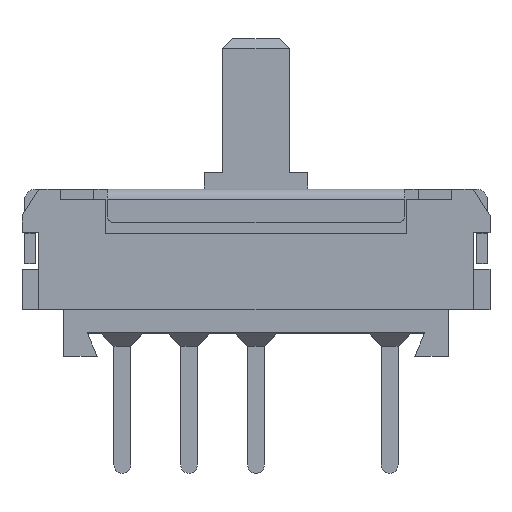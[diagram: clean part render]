
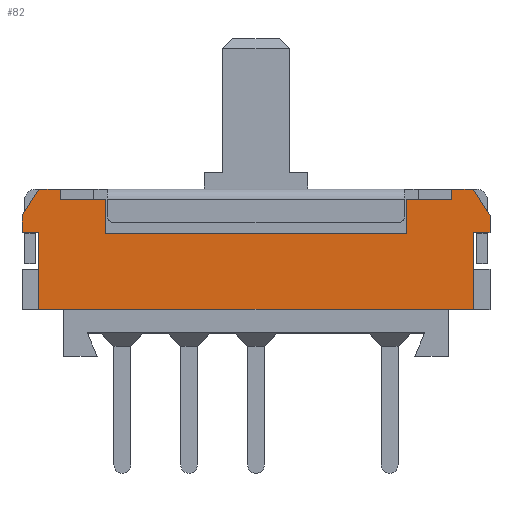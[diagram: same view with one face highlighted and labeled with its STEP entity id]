
A CAD part, top view. The second image highlights one B-rep face of the part: STEP entity #82.
In plain terms, the highlighted planar face has unit normal (0, 0, 1).
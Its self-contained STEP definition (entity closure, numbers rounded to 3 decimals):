
#82 = ADVANCED_FACE ( 'NONE', ( #2293 ), #2252, .T. ) ;
#83 = EDGE_LOOP ( 'NONE', ( #178, #342, #343, #346, #386, #389, #392, #337, #576, #487, #488, #504, #494, #577, #397, #402, #355, #323 ) ) ;
#104 = VERTEX_POINT ( 'NONE', #2243 ) ;
#106 = EDGE_CURVE ( 'NONE', #307, #104, #2241, .T. ) ;
#115 = EDGE_CURVE ( 'NONE', #131, #116, #2306, .T. ) ;
#116 = VERTEX_POINT ( 'NONE', #2302 ) ;
#131 = VERTEX_POINT ( 'NONE', #2547 ) ;
#178 = ORIENTED_EDGE ( 'NONE', *, *, #340, .T. ) ;
#307 = VERTEX_POINT ( 'NONE', #2867 ) ;
#309 = EDGE_CURVE ( 'NONE', #310, #307, #2957, .T. ) ;
#310 = VERTEX_POINT ( 'NONE', #2953 ) ;
#323 = ORIENTED_EDGE ( 'NONE', *, *, #324, .T. ) ;
#324 = EDGE_CURVE ( 'NONE', #399, #341, #2945, .T. ) ;
#335 = EDGE_CURVE ( 'NONE', #391, #336, #2827, .T. ) ;
#336 = VERTEX_POINT ( 'NONE', #2843 ) ;
#337 = ORIENTED_EDGE ( 'NONE', *, *, #338, .T. ) ;
#338 = EDGE_CURVE ( 'NONE', #336, #339, #2842, .T. ) ;
#339 = VERTEX_POINT ( 'NONE', #2838 ) ;
#340 = EDGE_CURVE ( 'NONE', #341, #116, #2975, .T. ) ;
#341 = VERTEX_POINT ( 'NONE', #2971 ) ;
#342 = ORIENTED_EDGE ( 'NONE', *, *, #115, .F. ) ;
#343 = ORIENTED_EDGE ( 'NONE', *, *, #344, .T. ) ;
#344 = EDGE_CURVE ( 'NONE', #131, #345, #2970, .T. ) ;
#345 = VERTEX_POINT ( 'NONE', #2966 ) ;
#346 = ORIENTED_EDGE ( 'NONE', *, *, #347, .T. ) ;
#347 = EDGE_CURVE ( 'NONE', #345, #348, #2965, .T. ) ;
#348 = VERTEX_POINT ( 'NONE', #2895 ) ;
#353 = EDGE_CURVE ( 'NONE', #401, #354, #2889, .T. ) ;
#354 = VERTEX_POINT ( 'NONE', #2885 ) ;
#355 = ORIENTED_EDGE ( 'NONE', *, *, #398, .T. ) ;
#386 = ORIENTED_EDGE ( 'NONE', *, *, #387, .T. ) ;
#387 = EDGE_CURVE ( 'NONE', #348, #388, #3037, .T. ) ;
#388 = VERTEX_POINT ( 'NONE', #2993 ) ;
#389 = ORIENTED_EDGE ( 'NONE', *, *, #390, .T. ) ;
#390 = EDGE_CURVE ( 'NONE', #388, #391, #2992, .T. ) ;
#391 = VERTEX_POINT ( 'NONE', #3053 ) ;
#392 = ORIENTED_EDGE ( 'NONE', *, *, #335, .T. ) ;
#397 = ORIENTED_EDGE ( 'NONE', *, *, #400, .T. ) ;
#398 = EDGE_CURVE ( 'NONE', #354, #399, #3198, .T. ) ;
#399 = VERTEX_POINT ( 'NONE', #3136 ) ;
#400 = EDGE_CURVE ( 'NONE', #579, #401, #3116, .T. ) ;
#401 = VERTEX_POINT ( 'NONE', #3149 ) ;
#402 = ORIENTED_EDGE ( 'NONE', *, *, #353, .T. ) ;
#486 = EDGE_CURVE ( 'NONE', #310, #339, #3464, .T. ) ;
#487 = ORIENTED_EDGE ( 'NONE', *, *, #309, .T. ) ;
#488 = ORIENTED_EDGE ( 'NONE', *, *, #106, .T. ) ;
#494 = ORIENTED_EDGE ( 'NONE', *, *, #495, .T. ) ;
#495 = EDGE_CURVE ( 'NONE', #506, #496, #3469, .T. ) ;
#496 = VERTEX_POINT ( 'NONE', #3414 ) ;
#504 = ORIENTED_EDGE ( 'NONE', *, *, #505, .T. ) ;
#505 = EDGE_CURVE ( 'NONE', #104, #506, #3504, .T. ) ;
#506 = VERTEX_POINT ( 'NONE', #3500 ) ;
#576 = ORIENTED_EDGE ( 'NONE', *, *, #486, .F. ) ;
#577 = ORIENTED_EDGE ( 'NONE', *, *, #578, .T. ) ;
#578 = EDGE_CURVE ( 'NONE', #496, #579, #3705, .T. ) ;
#579 = VERTEX_POINT ( 'NONE', #3667 ) ;
#2239 = VECTOR ( 'NONE', #2325, 1000. ) ;
#2240 = CARTESIAN_POINT ( 'NONE',  ( -7., 1.4, 2.35 ) ) ;
#2241 = LINE ( 'NONE', #2240, #2239 ) ;
#2243 = CARTESIAN_POINT ( 'NONE',  ( 6.5, 1.4, 2.35 ) ) ;
#2250 = CARTESIAN_POINT ( 'NONE',  ( -7., 1.4, 2.35 ) ) ;
#2251 = AXIS2_PLACEMENT_3D ( 'NONE', #2250, #2266, #2265 ) ;
#2252 = PLANE ( 'NONE',  #2251 ) ;
#2265 = DIRECTION ( 'NONE',  ( 1., 0., 0. ) ) ;
#2266 = DIRECTION ( 'NONE',  ( 0., 0., 1. ) ) ;
#2293 = FACE_OUTER_BOUND ( 'NONE', #83, .T. ) ;
#2302 = CARTESIAN_POINT ( 'NONE',  ( 4.5, 3.68, 2.35 ) ) ;
#2303 = DIRECTION ( 'NONE',  ( 1., 0., 0. ) ) ;
#2304 = VECTOR ( 'NONE', #2303, 1000. ) ;
#2305 = CARTESIAN_POINT ( 'NONE',  ( 2., 3.68, 2.35 ) ) ;
#2306 = LINE ( 'NONE', #2305, #2304 ) ;
#2325 = DIRECTION ( 'NONE',  ( 1., 0., 0. ) ) ;
#2547 = CARTESIAN_POINT ( 'NONE',  ( -4.5, 3.68, 2.35 ) ) ;
#2824 = DIRECTION ( 'NONE',  ( -0.53, -0.848, 0. ) ) ;
#2825 = VECTOR ( 'NONE', #2824, 1000. ) ;
#2826 = CARTESIAN_POINT ( 'NONE',  ( -6.5, 5., 2.35 ) ) ;
#2827 = LINE ( 'NONE', #2826, #2825 ) ;
#2838 = CARTESIAN_POINT ( 'NONE',  ( -7., 3.7, 2.35 ) ) ;
#2839 = DIRECTION ( 'NONE',  ( 0., -1., 0. ) ) ;
#2840 = VECTOR ( 'NONE', #2839, 1000. ) ;
#2841 = CARTESIAN_POINT ( 'NONE',  ( -7., 1.4, 2.35 ) ) ;
#2842 = LINE ( 'NONE', #2841, #2840 ) ;
#2843 = CARTESIAN_POINT ( 'NONE',  ( -7., 4.2, 2.35 ) ) ;
#2867 = CARTESIAN_POINT ( 'NONE',  ( -6.5, 1.4, 2.35 ) ) ;
#2885 = CARTESIAN_POINT ( 'NONE',  ( 5.85, 5., 2.35 ) ) ;
#2886 = DIRECTION ( 'NONE',  ( -1., 0., 0. ) ) ;
#2887 = VECTOR ( 'NONE', #2886, 1000. ) ;
#2888 = CARTESIAN_POINT ( 'NONE',  ( -4.5, 5., 2.35 ) ) ;
#2889 = LINE ( 'NONE', #2888, #2887 ) ;
#2895 = CARTESIAN_POINT ( 'NONE',  ( -5.85, 4.7, 2.35 ) ) ;
#2925 = DIRECTION ( 'NONE',  ( -1., 0., 0. ) ) ;
#2943 = VECTOR ( 'NONE', #2925, 1000. ) ;
#2944 = CARTESIAN_POINT ( 'NONE',  ( -4.5, 4.7, 2.35 ) ) ;
#2945 = LINE ( 'NONE', #2944, #2943 ) ;
#2953 = CARTESIAN_POINT ( 'NONE',  ( -6.5, 3.7, 2.35 ) ) ;
#2954 = DIRECTION ( 'NONE',  ( 0., -1., 0. ) ) ;
#2955 = VECTOR ( 'NONE', #2954, 1000. ) ;
#2956 = CARTESIAN_POINT ( 'NONE',  ( -6.5, 1.4, 2.35 ) ) ;
#2957 = LINE ( 'NONE', #2956, #2955 ) ;
#2962 = DIRECTION ( 'NONE',  ( -1., 0., 0. ) ) ;
#2963 = VECTOR ( 'NONE', #2962, 1000. ) ;
#2964 = CARTESIAN_POINT ( 'NONE',  ( -7., 4.7, 2.35 ) ) ;
#2965 = LINE ( 'NONE', #2964, #2963 ) ;
#2966 = CARTESIAN_POINT ( 'NONE',  ( -4.5, 4.7, 2.35 ) ) ;
#2967 = DIRECTION ( 'NONE',  ( 0., 1., 0. ) ) ;
#2968 = VECTOR ( 'NONE', #2967, 1000. ) ;
#2969 = CARTESIAN_POINT ( 'NONE',  ( -4.5, 1.4, 2.35 ) ) ;
#2970 = LINE ( 'NONE', #2969, #2968 ) ;
#2971 = CARTESIAN_POINT ( 'NONE',  ( 4.5, 4.7, 2.35 ) ) ;
#2972 = DIRECTION ( 'NONE',  ( 0., -1., 0. ) ) ;
#2973 = VECTOR ( 'NONE', #2972, 1000. ) ;
#2974 = CARTESIAN_POINT ( 'NONE',  ( 4.5, 1.4, 2.35 ) ) ;
#2975 = LINE ( 'NONE', #2974, #2973 ) ;
#2989 = DIRECTION ( 'NONE',  ( -1., 0., 0. ) ) ;
#2990 = VECTOR ( 'NONE', #2989, 1000. ) ;
#2991 = CARTESIAN_POINT ( 'NONE',  ( -7., 5., 2.35 ) ) ;
#2992 = LINE ( 'NONE', #2991, #2990 ) ;
#2993 = CARTESIAN_POINT ( 'NONE',  ( -5.85, 5., 2.35 ) ) ;
#3034 = DIRECTION ( 'NONE',  ( 0., 1., 0. ) ) ;
#3035 = VECTOR ( 'NONE', #3034, 1000. ) ;
#3036 = CARTESIAN_POINT ( 'NONE',  ( -5.85, 1.4, 2.35 ) ) ;
#3037 = LINE ( 'NONE', #3036, #3035 ) ;
#3053 = CARTESIAN_POINT ( 'NONE',  ( -6.5, 5., 2.35 ) ) ;
#3114 = VECTOR ( 'NONE', #3150, 1000. ) ;
#3115 = CARTESIAN_POINT ( 'NONE',  ( 7., 4.2, 2.35 ) ) ;
#3116 = LINE ( 'NONE', #3115, #3114 ) ;
#3136 = CARTESIAN_POINT ( 'NONE',  ( 5.85, 4.7, 2.35 ) ) ;
#3137 = DIRECTION ( 'NONE',  ( 0., -1., 0. ) ) ;
#3138 = VECTOR ( 'NONE', #3137, 1000. ) ;
#3149 = CARTESIAN_POINT ( 'NONE',  ( 6.5, 5., 2.35 ) ) ;
#3150 = DIRECTION ( 'NONE',  ( -0.53, 0.848, 0. ) ) ;
#3197 = CARTESIAN_POINT ( 'NONE',  ( 5.85, 1.4, 2.35 ) ) ;
#3198 = LINE ( 'NONE', #3197, #3138 ) ;
#3414 = CARTESIAN_POINT ( 'NONE',  ( 7., 3.7, 2.35 ) ) ;
#3415 = DIRECTION ( 'NONE',  ( 1., 0., 0. ) ) ;
#3462 = DIRECTION ( 'NONE',  ( -1., 0., 0. ) ) ;
#3463 = CARTESIAN_POINT ( 'NONE',  ( -5.85, 3.7, 2.35 ) ) ;
#3464 = LINE ( 'NONE', #3463, #3506 ) ;
#3467 = VECTOR ( 'NONE', #3415, 1000. ) ;
#3468 = CARTESIAN_POINT ( 'NONE',  ( 5.85, 3.7, 2.35 ) ) ;
#3469 = LINE ( 'NONE', #3468, #3467 ) ;
#3500 = CARTESIAN_POINT ( 'NONE',  ( 6.5, 3.7, 2.35 ) ) ;
#3501 = DIRECTION ( 'NONE',  ( 0., 1., 0. ) ) ;
#3502 = VECTOR ( 'NONE', #3501, 1000. ) ;
#3503 = CARTESIAN_POINT ( 'NONE',  ( 6.5, 1.4, 2.35 ) ) ;
#3504 = LINE ( 'NONE', #3503, #3502 ) ;
#3506 = VECTOR ( 'NONE', #3462, 1000. ) ;
#3667 = CARTESIAN_POINT ( 'NONE',  ( 7., 4.2, 2.35 ) ) ;
#3702 = DIRECTION ( 'NONE',  ( 0., 1., 0. ) ) ;
#3703 = VECTOR ( 'NONE', #3702, 1000. ) ;
#3704 = CARTESIAN_POINT ( 'NONE',  ( 7., 1.4, 2.35 ) ) ;
#3705 = LINE ( 'NONE', #3704, #3703 ) ;
